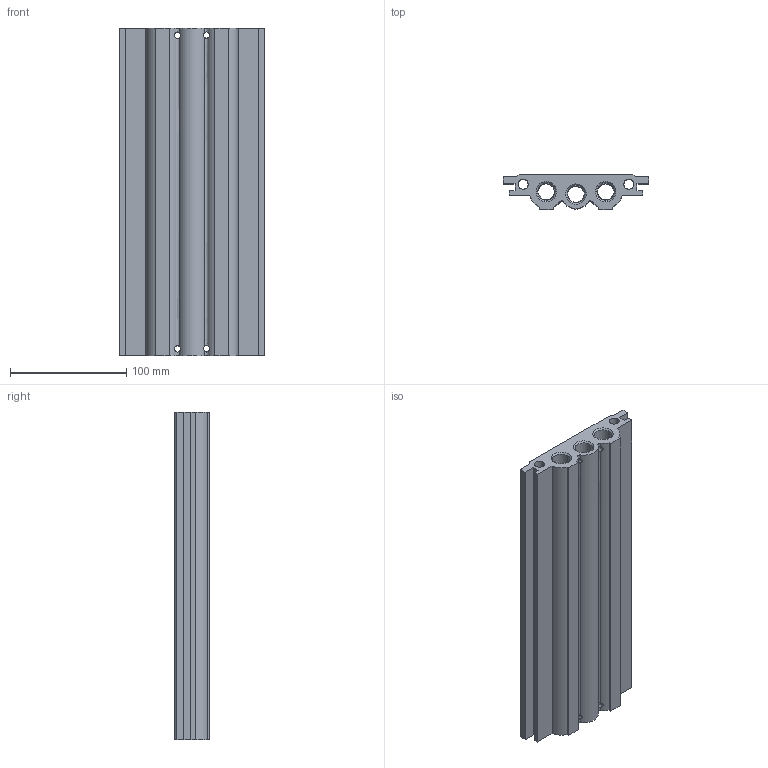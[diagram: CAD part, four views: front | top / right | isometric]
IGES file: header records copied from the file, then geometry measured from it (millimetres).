
Global section: file name: No Iges File Name specified; native system: AutoDesk Inventor R11.0; preprocessor: AutoDesk Inventor Iges Exporter R11.0; author: No Author specified; organization: No Organization specified; date: 20061201.115358; units: millimetre
Bounding box: 125 x 30 x 282 mm (x, y, z)
Volume: 580448.6 mm3; surface area: 161869.9 mm2
Topology: 1 solids, 1 shells, 345 faces, 903 edges, 598 vertices
Faces by surface type: bspline 284, revolution 28, plane 28, cylinder 5
